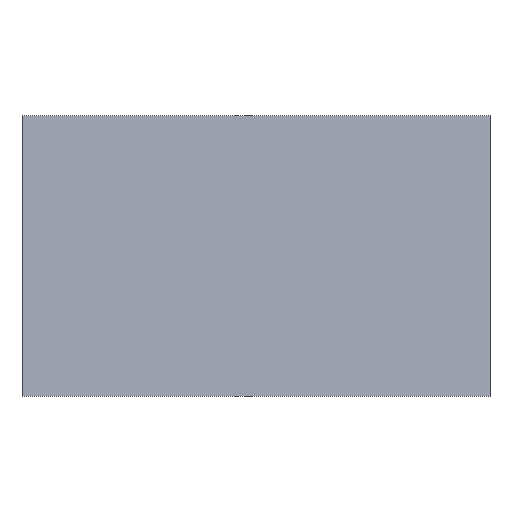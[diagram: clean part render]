
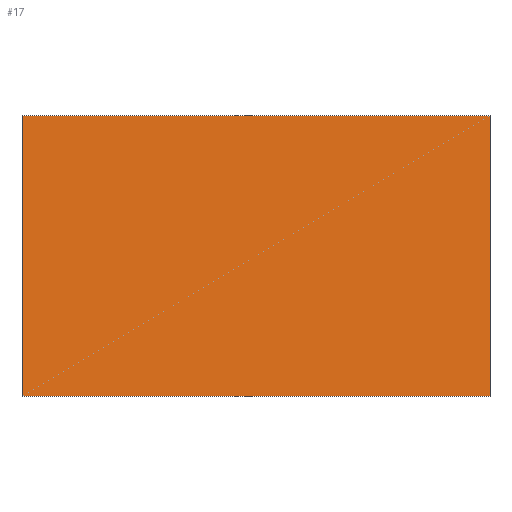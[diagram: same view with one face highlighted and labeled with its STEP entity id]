
A CAD part, front view. The second image highlights one B-rep face of the part: STEP entity #17.
In plain terms, the highlighted planar face has unit normal (0, -0.995, 0.104).
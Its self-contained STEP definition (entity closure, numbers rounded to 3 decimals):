
#17 = ADVANCED_FACE('',(#18),#32,.F.);
#18 = FACE_BOUND('',#19,.T.);
#19 = EDGE_LOOP('',(#20,#55,#83,#111));
#20 = ORIENTED_EDGE('',*,*,#21,.F.);
#21 = EDGE_CURVE('',#22,#24,#26,.T.);
#22 = VERTEX_POINT('',#23);
#23 = CARTESIAN_POINT('',(1.,7.357,-80.));
#24 = VERTEX_POINT('',#25);
#25 = CARTESIAN_POINT('',(1.,8.619,-68.));
#26 = SURFACE_CURVE('',#27,(#31,#43),.PCURVE_S1.);
#27 = LINE('',#28,#29);
#28 = CARTESIAN_POINT('',(1.,0.,-150.));
#29 = VECTOR('',#30,1.);
#30 = DIRECTION('',(-0.,0.105,0.995));
#31 = PCURVE('',#32,#37);
#32 = PLANE('',#33);
#33 = AXIS2_PLACEMENT_3D('',#34,#35,#36);
#34 = CARTESIAN_POINT('',(1.,0.,-150.));
#35 = DIRECTION('',(0.,0.995,-0.105));
#36 = DIRECTION('',(0.,-0.105,-0.995));
#37 = DEFINITIONAL_REPRESENTATION('',(#38),#42);
#38 = LINE('',#39,#40);
#39 = CARTESIAN_POINT('',(-0.,0.));
#40 = VECTOR('',#41,1.);
#41 = DIRECTION('',(-1.,0.));
#42 = ( GEOMETRIC_REPRESENTATION_CONTEXT(2) 
PARAMETRIC_REPRESENTATION_CONTEXT() REPRESENTATION_CONTEXT('2D SPACE',''
  ) );
#43 = PCURVE('',#44,#49);
#44 = PLANE('',#45);
#45 = AXIS2_PLACEMENT_3D('',#46,#47,#48);
#46 = CARTESIAN_POINT('',(1.,6.309,-109.));
#47 = DIRECTION('',(1.,-0.,-0.));
#48 = DIRECTION('',(0.,0.,-1.));
#49 = DEFINITIONAL_REPRESENTATION('',(#50),#54);
#50 = LINE('',#51,#52);
#51 = CARTESIAN_POINT('',(41.,-6.309));
#52 = VECTOR('',#53,1.);
#53 = DIRECTION('',(-0.995,0.105));
#54 = ( GEOMETRIC_REPRESENTATION_CONTEXT(2) 
PARAMETRIC_REPRESENTATION_CONTEXT() REPRESENTATION_CONTEXT('2D SPACE',''
  ) );
#55 = ORIENTED_EDGE('',*,*,#56,.F.);
#56 = EDGE_CURVE('',#57,#22,#59,.T.);
#57 = VERTEX_POINT('',#58);
#58 = CARTESIAN_POINT('',(21.,7.357,-80.));
#59 = SURFACE_CURVE('',#60,(#64,#71),.PCURVE_S1.);
#60 = LINE('',#61,#62);
#61 = CARTESIAN_POINT('',(-199.5,7.357,-80.));
#62 = VECTOR('',#63,1.);
#63 = DIRECTION('',(-1.,-0.,0.));
#64 = PCURVE('',#32,#65);
#65 = DEFINITIONAL_REPRESENTATION('',(#66),#70);
#66 = LINE('',#67,#68);
#67 = CARTESIAN_POINT('',(-70.386,200.5));
#68 = VECTOR('',#69,1.);
#69 = DIRECTION('',(-0.,1.));
#70 = ( GEOMETRIC_REPRESENTATION_CONTEXT(2) 
PARAMETRIC_REPRESENTATION_CONTEXT() REPRESENTATION_CONTEXT('2D SPACE',''
  ) );
#71 = PCURVE('',#72,#77);
#72 = PLANE('',#73);
#73 = AXIS2_PLACEMENT_3D('',#74,#75,#76);
#74 = CARTESIAN_POINT('',(-400.,400.,-80.));
#75 = DIRECTION('',(0.,0.,1.));
#76 = DIRECTION('',(-1.,0.,0.));
#77 = DEFINITIONAL_REPRESENTATION('',(#78),#82);
#78 = LINE('',#79,#80);
#79 = CARTESIAN_POINT('',(-200.5,392.643));
#80 = VECTOR('',#81,1.);
#81 = DIRECTION('',(1.,-0.));
#82 = ( GEOMETRIC_REPRESENTATION_CONTEXT(2) 
PARAMETRIC_REPRESENTATION_CONTEXT() REPRESENTATION_CONTEXT('2D SPACE',''
  ) );
#83 = ORIENTED_EDGE('',*,*,#84,.T.);
#84 = EDGE_CURVE('',#57,#85,#87,.T.);
#85 = VERTEX_POINT('',#86);
#86 = CARTESIAN_POINT('',(21.,8.619,-68.));
#87 = SURFACE_CURVE('',#88,(#92,#99),.PCURVE_S1.);
#88 = LINE('',#89,#90);
#89 = CARTESIAN_POINT('',(21.,0.,-150.));
#90 = VECTOR('',#91,1.);
#91 = DIRECTION('',(-0.,0.105,0.995));
#92 = PCURVE('',#32,#93);
#93 = DEFINITIONAL_REPRESENTATION('',(#94),#98);
#94 = LINE('',#95,#96);
#95 = CARTESIAN_POINT('',(-0.,-20.));
#96 = VECTOR('',#97,1.);
#97 = DIRECTION('',(-1.,0.));
#98 = ( GEOMETRIC_REPRESENTATION_CONTEXT(2) 
PARAMETRIC_REPRESENTATION_CONTEXT() REPRESENTATION_CONTEXT('2D SPACE',''
  ) );
#99 = PCURVE('',#100,#105);
#100 = PLANE('',#101);
#101 = AXIS2_PLACEMENT_3D('',#102,#103,#104);
#102 = CARTESIAN_POINT('',(21.,6.309,-109.));
#103 = DIRECTION('',(1.,-0.,-0.));
#104 = DIRECTION('',(0.,0.,-1.));
#105 = DEFINITIONAL_REPRESENTATION('',(#106),#110);
#106 = LINE('',#107,#108);
#107 = CARTESIAN_POINT('',(41.,-6.309));
#108 = VECTOR('',#109,1.);
#109 = DIRECTION('',(-0.995,0.105));
#110 = ( GEOMETRIC_REPRESENTATION_CONTEXT(2) 
PARAMETRIC_REPRESENTATION_CONTEXT() REPRESENTATION_CONTEXT('2D SPACE',''
  ) );
#111 = ORIENTED_EDGE('',*,*,#112,.F.);
#112 = EDGE_CURVE('',#24,#85,#113,.T.);
#113 = SURFACE_CURVE('',#114,(#118,#125),.PCURVE_S1.);
#114 = LINE('',#115,#116);
#115 = CARTESIAN_POINT('',(1.,8.619,-68.));
#116 = VECTOR('',#117,1.);
#117 = DIRECTION('',(1.,-0.,-0.));
#118 = PCURVE('',#32,#119);
#119 = DEFINITIONAL_REPRESENTATION('',(#120),#124);
#120 = LINE('',#121,#122);
#121 = CARTESIAN_POINT('',(-82.452,0.));
#122 = VECTOR('',#123,1.);
#123 = DIRECTION('',(-0.,-1.));
#124 = ( GEOMETRIC_REPRESENTATION_CONTEXT(2) 
PARAMETRIC_REPRESENTATION_CONTEXT() REPRESENTATION_CONTEXT('2D SPACE',''
  ) );
#125 = PCURVE('',#126,#131);
#126 = PLANE('',#127);
#127 = AXIS2_PLACEMENT_3D('',#128,#129,#130);
#128 = CARTESIAN_POINT('',(1.,8.619,-68.));
#129 = DIRECTION('',(-0.,-0.,-1.));
#130 = DIRECTION('',(0.,-1.,0.));
#131 = DEFINITIONAL_REPRESENTATION('',(#132),#136);
#132 = LINE('',#133,#134);
#133 = CARTESIAN_POINT('',(-0.,0.));
#134 = VECTOR('',#135,1.);
#135 = DIRECTION('',(-0.,-1.));
#136 = ( GEOMETRIC_REPRESENTATION_CONTEXT(2) 
PARAMETRIC_REPRESENTATION_CONTEXT() REPRESENTATION_CONTEXT('2D SPACE',''
  ) );
